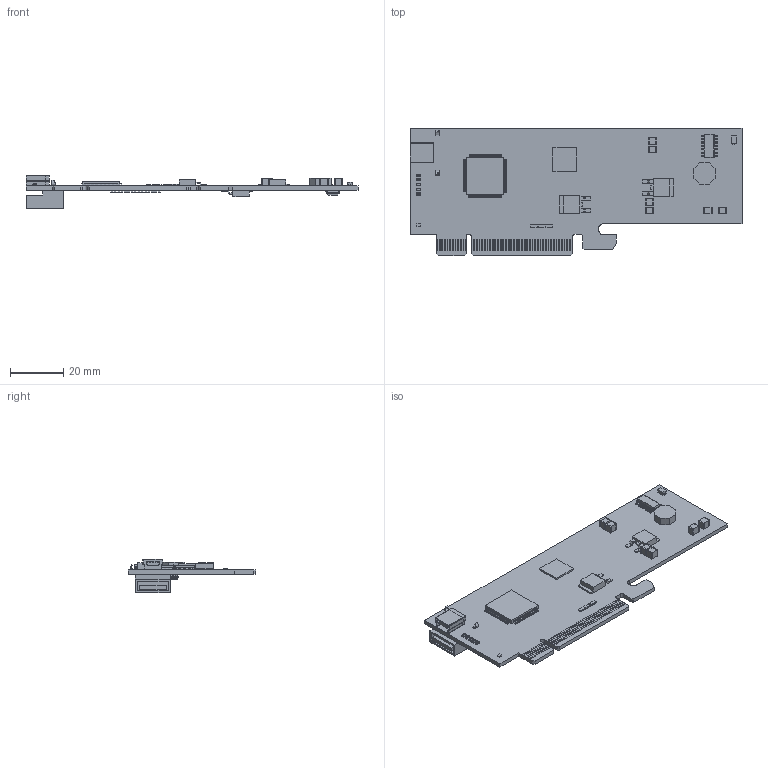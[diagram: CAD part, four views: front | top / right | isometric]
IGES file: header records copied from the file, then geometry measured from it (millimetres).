
Start section: SolidWorks IGES file using analytic representation for surfaces
Global section: file name: C:\Users\acroname\development\cad\S62-MTM-IO-SERIAL\S62-MTM-IO-SERIAL.IGS; native system: SolidWorks 2016; preprocessor: SolidWorks 2016; author: acroname; date: 151001.143740; units: millimetre
Bounding box: 125 x 48 x 12.66 mm (x, y, z)
Surface area: 16096.6 mm2 (no closed solid volume)
Topology: 0 solids, 0 shells, 4328 faces, 25204 edges, 25169 vertices
Faces by surface type: bspline 3111, revolution 1217
